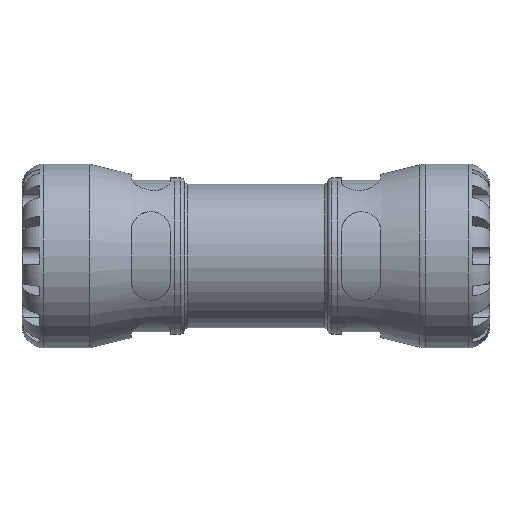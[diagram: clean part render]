
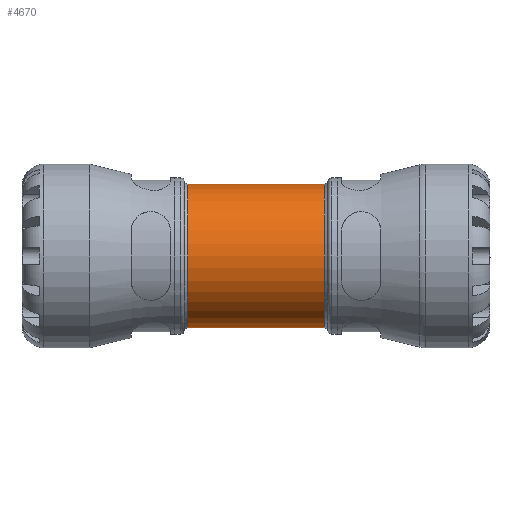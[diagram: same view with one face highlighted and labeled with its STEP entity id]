
A CAD part, front view. The second image highlights one B-rep face of the part: STEP entity #4670.
In plain terms, the highlighted cylindrical face has radius 40.17 mm (diameter 80.34 mm), a full revolution.
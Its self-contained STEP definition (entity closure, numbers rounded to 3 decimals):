
#684=FACE_BOUND('',#1119,.T.);
#685=FACE_BOUND('',#1120,.T.);
#732=CYLINDRICAL_SURFACE('',#4960,40.17);
#830=FACE_OUTER_BOUND('',#1118,.T.);
#1118=EDGE_LOOP('',(#3021));
#1119=EDGE_LOOP('',(#3022));
#1120=EDGE_LOOP('',(#3023));
#1451=B_SPLINE_CURVE_WITH_KNOTS('',3,(#6910,#6911,#6912,#6913,#6914,#6915,
#6916,#6917,#6918,#6919,#6920,#6921,#6922,#6923,#6924,#6925,#6926,#6927),
 .UNSPECIFIED.,.T.,.F.,(4,1,1,1,1,1,1,1,1,1,1,1,1,1,1,4),(-11.231,
-10.429,-9.627,-8.824,-8.022,
-7.487,-6.418,-5.883,-5.348,
-4.813,-4.278,-3.209,-2.674,
-1.604,-0.802,0.),.UNSPECIFIED.);
#1647=CIRCLE('',#4961,40.17);
#1648=CIRCLE('',#4962,40.17);
#1892=VERTEX_POINT('',#6889);
#1895=VERTEX_POINT('',#6932);
#1896=VERTEX_POINT('',#6934);
#2335=EDGE_CURVE('',#1892,#1892,#1451,.T.);
#2337=EDGE_CURVE('',#1895,#1895,#1647,.T.);
#2338=EDGE_CURVE('',#1896,#1896,#1648,.T.);
#3021=ORIENTED_EDGE('',*,*,#2337,.F.);
#3022=ORIENTED_EDGE('',*,*,#2338,.F.);
#3023=ORIENTED_EDGE('',*,*,#2335,.F.);
#4670=ADVANCED_FACE('',(#830,#684,#685),#732,.T.);
#4960=AXIS2_PLACEMENT_3D('',#6931,#5498,#5499);
#4961=AXIS2_PLACEMENT_3D('',#6933,#5500,#5501);
#4962=AXIS2_PLACEMENT_3D('',#6935,#5502,#5503);
#5498=DIRECTION('center_axis',(1.,0.,0.));
#5499=DIRECTION('ref_axis',(0.,1.,0.));
#5500=DIRECTION('center_axis',(-1.,0.,0.));
#5501=DIRECTION('ref_axis',(0.,1.,0.));
#5502=DIRECTION('center_axis',(1.,0.,0.));
#5503=DIRECTION('ref_axis',(0.,1.,0.));
#6889=CARTESIAN_POINT('',(0.,35.459,18.876));
#6910=CARTESIAN_POINT('Ctrl Pts',(-0.001,35.458,
18.876));
#6911=CARTESIAN_POINT('Ctrl Pts',(2.931,35.459,18.876));
#6912=CARTESIAN_POINT('Ctrl Pts',(8.799,36.219,17.521));
#6913=CARTESIAN_POINT('Ctrl Pts',(15.575,38.484,12.208));
#6914=CARTESIAN_POINT('Ctrl Pts',(19.515,40.238,4.442));
#6915=CARTESIAN_POINT('Ctrl Pts',(19.514,40.239,-3.452));
#6916=CARTESIAN_POINT('Ctrl Pts',(16.235,38.778,-11.421));
#6917=CARTESIAN_POINT('Ctrl Pts',(10.473,36.636,-16.646));
#6918=CARTESIAN_POINT('Ctrl Pts',(2.985,35.42,-18.943));
#6919=CARTESIAN_POINT('Ctrl Pts',(-2.986,35.427,-18.944));
#6920=CARTESIAN_POINT('Ctrl Pts',(-8.6,36.322,-17.216));
#6921=CARTESIAN_POINT('Ctrl Pts',(-14.941,38.184,-12.982));
#6922=CARTESIAN_POINT('Ctrl Pts',(-18.985,39.999,-6.294));
#6923=CARTESIAN_POINT('Ctrl Pts',(-19.762,40.366,3.42));
#6924=CARTESIAN_POINT('Ctrl Pts',(-16.346,38.754,11.63));
#6925=CARTESIAN_POINT('Ctrl Pts',(-8.79,36.212,17.516));
#6926=CARTESIAN_POINT('Ctrl Pts',(-2.932,35.457,18.875));
#6927=CARTESIAN_POINT('Ctrl Pts',(-0.001,35.458,
18.876));
#6931=CARTESIAN_POINT('Origin',(20.085,0.,0.));
#6932=CARTESIAN_POINT('',(-38.142,-40.17,0.));
#6933=CARTESIAN_POINT('Origin',(-38.142,0.,0.));
#6934=CARTESIAN_POINT('',(38.142,-40.17,0.));
#6935=CARTESIAN_POINT('Origin',(38.142,0.,0.));
